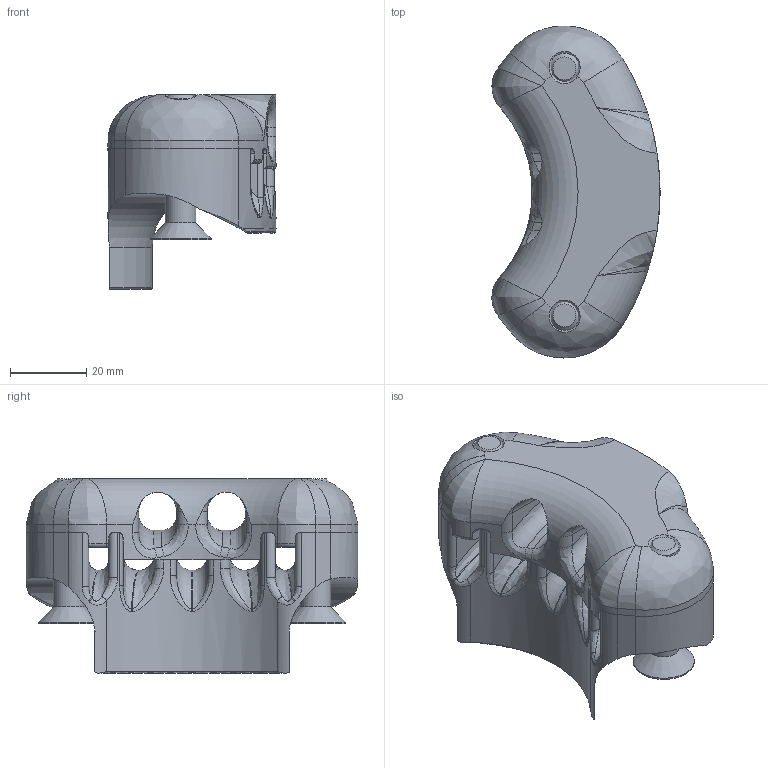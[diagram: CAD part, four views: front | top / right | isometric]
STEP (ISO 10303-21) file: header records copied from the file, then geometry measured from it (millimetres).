
FILE_DESCRIPTION(/* description */ (''),/* implementation_level */ '2;1');
FILE_NAME(/* name */ 'APD_MINI650_RIG_AILE_MAT_TROPETTETDM.stp',/* time_stamp */ '2016-07-29T12:59:17+02:00',/* author */ (''),/* organization */ (''),/* preprocessor_version */ 'ST-DEVELOPER v15',/* originating_system */ 'SIEMENS PLM Software NX 8.5',/* authorisation */ '');
FILE_SCHEMA (('AUTOMOTIVE_DESIGN { 1 0 10303 214 3 1 1 1 }'));
Length unit declared in the file: millimetre
Products named in the file (1): ROMA23DCFF462mcw
Bounding box: 44.11 x 87.12 x 51 mm (x, y, z)
Volume: 62136.2 mm3; surface area: 28353.4 mm2
Topology: 4 solids, 4 shells, 264 faces, 680 edges, 410 vertices
Faces by surface type: cylinder 91, bspline 80, plane 52, torus 33, cone 8
Full cylindrical faces by diameter (mm): 6 x2, 8 x4, 16 x2
Entity records: 10485 total; most frequent: CARTESIAN_POINT 4669, ORIENTED_EDGE 1316, DIRECTION 1080, EDGE_CURVE 658, AXIS2_PLACEMENT_3D 453, VERTEX_POINT 404, EDGE_LOOP 278, ADVANCED_FACE 264
